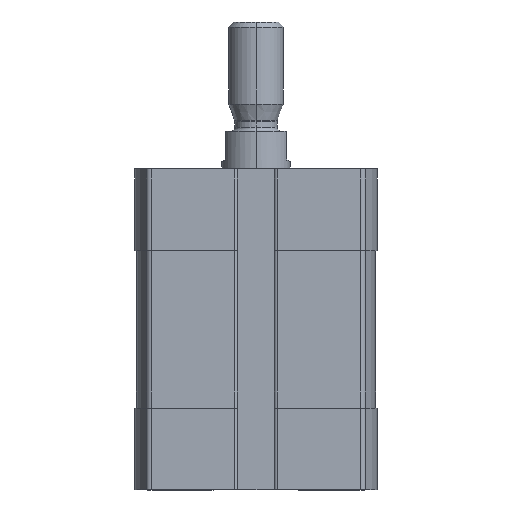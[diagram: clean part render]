
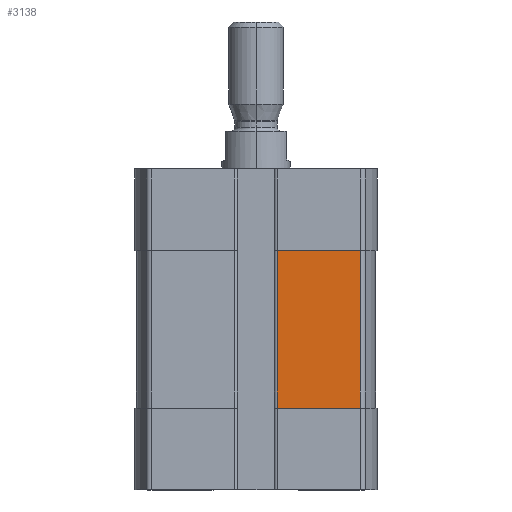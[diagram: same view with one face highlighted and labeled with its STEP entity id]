
A CAD part, left-side view. The second image highlights one B-rep face of the part: STEP entity #3138.
In plain terms, the highlighted planar face has unit normal (-1, 0, 0).
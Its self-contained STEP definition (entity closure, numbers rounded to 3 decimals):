
#39 = VERTEX_POINT ( 'NONE', #10147 ) ;
#316 = FACE_OUTER_BOUND ( 'NONE', #10711, .T. ) ;
#338 = VERTEX_POINT ( 'NONE', #7401 ) ;
#484 = EDGE_CURVE ( 'NONE', #39, #338, #6703, .T. ) ;
#872 = DIRECTION ( 'NONE',  ( 0., 0., 1. ) ) ;
#1153 = CARTESIAN_POINT ( 'NONE',  ( -17.5, -3.1, -12. ) ) ;
#1165 = EDGE_CURVE ( 'NONE', #338, #8210, #4833, .T. ) ;
#1721 = CARTESIAN_POINT ( 'NONE',  ( -17.5, 0., -12. ) ) ;
#2335 = DIRECTION ( 'NONE',  ( 0., -1., 0. ) ) ;
#2497 = ORIENTED_EDGE ( 'NONE', *, *, #8668, .T. ) ;
#2519 = LINE ( 'NONE', #8853, #7925 ) ;
#2765 = DIRECTION ( 'NONE',  ( 0., 0., 1. ) ) ;
#3138 = ADVANCED_FACE ( 'NONE', ( #316 ), #13055, .T. ) ;
#3935 = DIRECTION ( 'NONE',  ( 0., 1., 0. ) ) ;
#4199 = ORIENTED_EDGE ( 'NONE', *, *, #484, .T. ) ;
#4426 = ORIENTED_EDGE ( 'NONE', *, *, #1165, .T. ) ;
#4706 = DIRECTION ( 'NONE',  ( 0., 0., 1. ) ) ;
#4833 = LINE ( 'NONE', #1721, #9889 ) ;
#5554 = VERTEX_POINT ( 'NONE', #11387 ) ;
#6410 = CARTESIAN_POINT ( 'NONE',  ( -17.5, -3.1, -35. ) ) ;
#6703 = LINE ( 'NONE', #12770, #11785 ) ;
#6974 = DIRECTION ( 'NONE',  ( -1., 0., 0. ) ) ;
#7401 = CARTESIAN_POINT ( 'NONE',  ( -17.5, -15.253, -12. ) ) ;
#7772 = VECTOR ( 'NONE', #2335, 1000. ) ;
#7925 = VECTOR ( 'NONE', #2765, 1000. ) ;
#8093 = LINE ( 'NONE', #6410, #7772 ) ;
#8210 = VERTEX_POINT ( 'NONE', #1153 ) ;
#8668 = EDGE_CURVE ( 'NONE', #5554, #39, #8093, .T. ) ;
#8853 = CARTESIAN_POINT ( 'NONE',  ( -17.5, -3.1, -35. ) ) ;
#8871 = EDGE_CURVE ( 'NONE', #5554, #8210, #2519, .T. ) ;
#9237 = ORIENTED_EDGE ( 'NONE', *, *, #8871, .F. ) ;
#9889 = VECTOR ( 'NONE', #3935, 1000. ) ;
#10147 = CARTESIAN_POINT ( 'NONE',  ( -17.5, -15.253, -35. ) ) ;
#10711 = EDGE_LOOP ( 'NONE', ( #2497, #4199, #4426, #9237 ) ) ;
#11041 = CARTESIAN_POINT ( 'NONE',  ( -17.5, -3.1, -35. ) ) ;
#11334 = AXIS2_PLACEMENT_3D ( 'NONE', #11041, #6974, #872 ) ;
#11387 = CARTESIAN_POINT ( 'NONE',  ( -17.5, -3.1, -35. ) ) ;
#11785 = VECTOR ( 'NONE', #4706, 1000. ) ;
#12770 = CARTESIAN_POINT ( 'NONE',  ( -17.5, -15.253, -35. ) ) ;
#13055 = PLANE ( 'NONE',  #11334 ) ;
